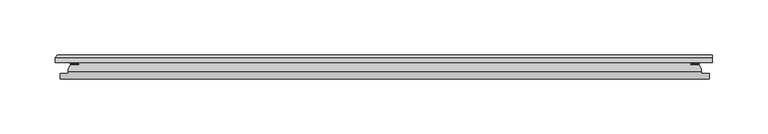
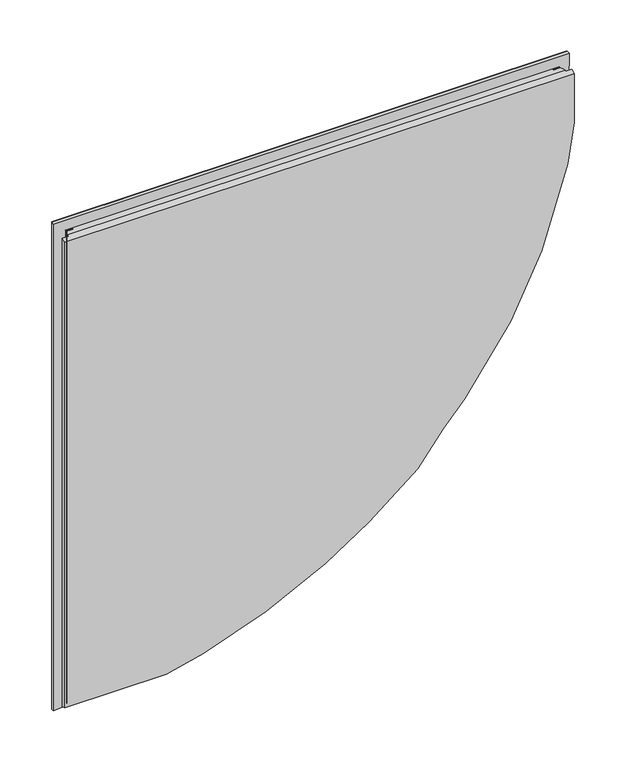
"""IFC4 building model written with IfcOpenShell, lengths in millimetres: plate geometry, Rockfon X CORNER 3 : Rockfon Blanka X."""

from ifc_helpers import new_model, si_unit, origin, place, context, project, spatial, faceted_brep, source, transform, mapped, element, save


def plate_e06be09b(model_context):
    return source(origin(), model_context, "Body", "Brep", [
        faceted_brep([(-297.7999998, 22.0, 597.9741918), (297.799346, 22.0, 597.9741918), (297.799346, 22.0, 588.5373325), (296.7339654, 22.0, 537.1280727), (287.6113949, 22.0, 477.2358118), (257.5396158, 22.0, 381.3924275), (221.5531418, 22.0, 307.6416664), (168.200258, 22.0, 231.2881175), (143.1601611, 22.0, 203.1217584), (113.7450677, 22.0, 164.7473871), (57.4315667, 22.0, 119.1921062), (7.3233258, 22.0, 86.227963), (-61.8734001, 22.0, 51.1710838), (-134.1741143, 22.0, 25.4162998), (-196.6374384, 22.0, 10.2116541), (-297.7999998, 22.0, 3.9591689), (-294.9999998, 0.0, 585.16), (-294.9999998, 0.0, 14.84), (-177.6233899, 0.0, 14.84), (-134.1741143, 0.0, 25.4162998), (-61.8734001, 0.0, 51.1710838), (7.3233258, 0.0, 86.227963), (57.4315667, 0.0, 119.1921062), (113.7450677, 0.0, 164.7473871), (143.1601611, 0.0, 203.1217584), (168.200258, 0.0, 231.2881175), (221.5531418, 0.0, 307.6416664), (257.5396158, 0.0, 381.3924275), (287.6113949, 0.0, 477.2358118), (294.999346, 0.0, 525.7398045), (294.999346, 0.0, 585.16), (-287.9499998, 5.0, 12.8198689), (-294.9999998, 5.0, 12.8198689), (-294.9999998, 5.0, 587.1801311), (-287.9499998, 5.0, 587.1801311), (-299.6421135, 18.8549279, 599.79), (-299.8499998, 18.5, 599.79), (-299.8499998, 15.0, 599.79), (298.0325408, 15.0, 599.79), (298.0325408, 18.8549279, 599.79), (297.9989891, 21.6591459, 598.170984), (287.949346, 6.3114715, 587.71), (-287.9499998, 6.3114715, 587.71), (294.999346, 5.0, 587.1801311), (287.949346, 5.0, 587.1801311), (286.049346, 15.0, 587.71), (-286.0499998, 15.0, 587.71), (-286.0499998, 14.0, 587.71), (-278.0499998, 14.0, 587.71), (-278.0499998, 12.5, 587.71), (-285.9499998, 12.5, 587.71), (-287.9499998, 9.0, 587.71), (287.949346, 9.0, 587.71), (285.949346, 12.5, 587.71), (278.049346, 12.5, 587.71), (278.049346, 14.0, 587.71), (286.049346, 14.0, 587.71), (-286.0499998, 14.0, 12.29), (-286.0499998, 15.0, 12.29), (-188.0992325, 15.0, 12.29), (-188.0992325, 6.3114715, 12.29), (-287.9499998, 6.3114715, 12.29), (-287.9499998, 9.0, 12.29), (-285.9499998, 12.5, 12.29), (-278.0499998, 12.5, 12.29), (-278.0499998, 14.0, 12.29), (-299.8499998, 18.5, 3.832466), (-299.8499998, 15.0, 3.832466), (286.049346, 15.0, 472.2573216), (287.6113949, 15.0, 477.2358118), (296.7339654, 15.0, 537.1280727), (-196.6374384, 15.0, 10.2116541), (294.999346, 5.0, 525.7398045), (287.949346, 5.0, 479.4545563), (287.949346, 9.0, 479.4545563), (287.6113949, 9.5914143, 477.2358118), (285.949346, 12.5, 471.9386063), (278.049346, 12.5, 446.7600915), (278.049346, 14.0, 446.7600915), (286.049346, 14.0, 472.2573216)], [[[0, 1, 2, 3, 4, 5, 6, 7, 8, 9, 10, 11, 12, 13, 14, 15]], [[16, 17, 18, 19, 20, 21, 22, 23, 24, 25, 26, 27, 28, 29, 30]], [[31, 32, 33, 34]], [[35, 36, 37, 38, 39]], [[1, 0, 35, 39, 40]], [[41, 42, 34, 33, 16, 30, 43, 44]], [[45, 46, 47, 48, 49, 50, 51, 42, 41, 52, 53, 54, 55, 56]], [[57, 58, 59, 60, 61, 62, 63, 64, 65]], [[32, 31, 61, 60, 18, 17]], [[36, 35, 0, 15, 66]], [[37, 36, 66, 67]], [[58, 46, 45, 68, 69, 70, 38, 37, 67, 71, 59]], [[58, 57, 47, 46]], [[57, 65, 48, 47]], [[65, 64, 49, 48]], [[64, 63, 50, 49]], [[63, 62, 51, 50]], [[62, 61, 31, 34, 42, 51]], [[32, 17, 16, 33]], [[43, 30, 29, 72]], [[44, 43, 72, 73]], [[41, 44, 73, 74, 52]], [[53, 52, 74, 75, 76]], [[54, 53, 76, 77]], [[55, 54, 77, 78]], [[56, 55, 78, 79]], [[45, 56, 79, 68]], [[2, 1, 40]], [[70, 3, 2, 40, 39, 38]], [[4, 69, 68, 79, 78, 77, 76, 75, 28, 27, 5]], [[6, 26, 25, 7]], [[9, 23, 22, 10]], [[12, 20, 19, 13]], [[14, 71, 67, 66, 15]], [[69, 4, 3, 70]], [[28, 75, 74, 73, 72, 29]], [[26, 6, 5, 27]], [[23, 9, 8, 24]], [[10, 22, 21, 11]], [[20, 12, 11, 21]], [[71, 14, 13, 19, 18, 60, 59]], [[24, 8, 7, 25]]]),
    ])


if __name__ == "__main__":
    model = new_model("IFC4")
    model_context = context("Model", 3, world=origin())
    ifc_project = project(units=[si_unit("LENGTHUNIT", "METRE", prefix="MILLI")], contexts=[model_context])
    site = spatial("IfcSite", under=ifc_project)
    building = spatial("IfcBuilding", under=site)
    placement = place(None, origin())
    plate_shape = plate_e06be09b(model_context)
    element("IfcPlate", 1, ObjectType="Rockfon X CORNER 3 : Rockfon Blanka X", at=placement, inside=building, context=model_context, shape_type="MappedRepresentation", body=[
        mapped(plate_shape, transform((0.0, 0.0, 0.0), x_axis=(1.0, 0.0, 0.0), y_axis=(0.0, 1.0, 0.0), z_axis=(0.0, 0.0, 1.0))),
    ])
    save(model, "model.ifc")
